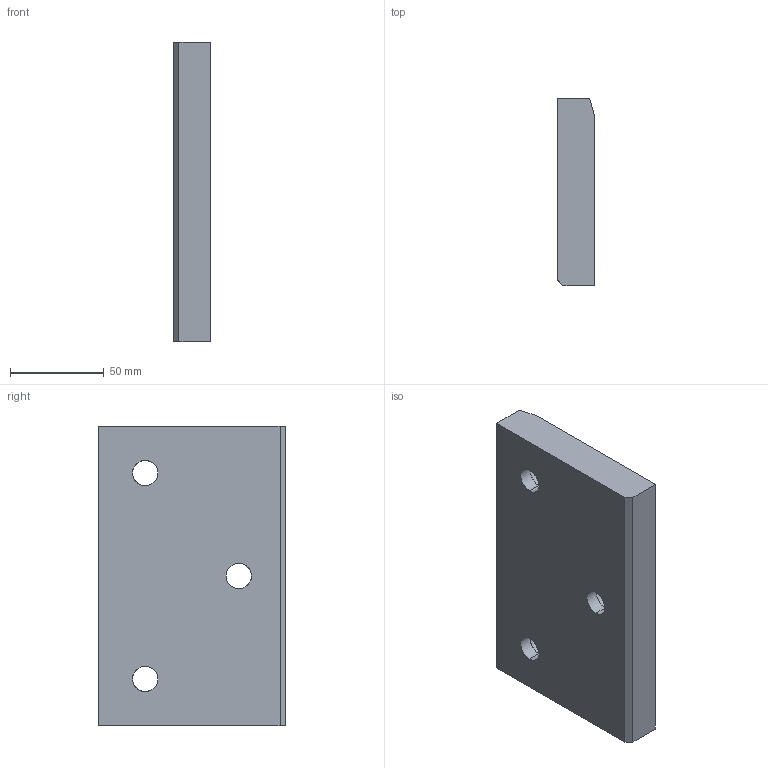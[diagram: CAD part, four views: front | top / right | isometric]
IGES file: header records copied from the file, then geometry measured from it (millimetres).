
Start section: START RECORD GO HERE.
Global section: file name: A915-160X100.igs; native system: DASSAULT SYSTEMES CATIA V5 R20 - www.3ds.com; preprocessor: CATIA Version 5 Release 20 ; author: Utente; organization: NB04-ASUS; date: 20200407.210129; units: millimetre
Bounding box: 20 x 100 x 160 mm (x, y, z)
Surface area: 43961.1 mm2 (no closed solid volume)
Topology: 0 solids, 0 shells, 30 faces, 138 edges, 138 vertices
Faces by surface type: revolution 19, extrusion 11
